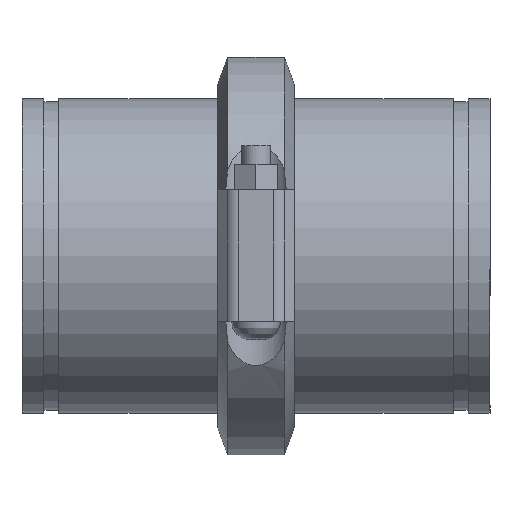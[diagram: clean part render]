
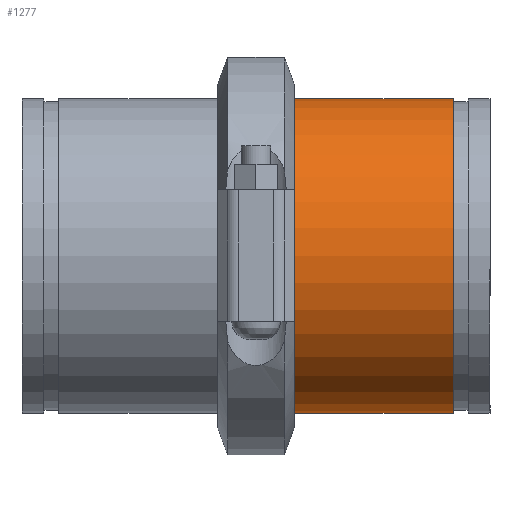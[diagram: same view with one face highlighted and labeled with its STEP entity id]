
A CAD part, top view. The second image highlights one B-rep face of the part: STEP entity #1277.
In plain terms, the highlighted cylindrical face has radius 136.525 mm (diameter 273.05 mm), a full revolution.
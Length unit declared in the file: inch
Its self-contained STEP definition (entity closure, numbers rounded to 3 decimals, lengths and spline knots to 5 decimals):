
#60=LINE('',#2021,#143);
#143=VECTOR('',#1650,5.375);
#226=CYLINDRICAL_SURFACE('',#1467,5.375);
#275=FACE_OUTER_BOUND('',#352,.T.);
#352=EDGE_LOOP('',(#837,#838,#839,#840,#841,#842));
#448=CIRCLE('',#1465,5.375);
#449=CIRCLE('',#1466,5.375);
#450=CIRCLE('',#1468,5.375);
#451=CIRCLE('',#1469,5.375);
#520=VERTEX_POINT('',#2012);
#521=VERTEX_POINT('',#2013);
#522=VERTEX_POINT('',#2017);
#523=VERTEX_POINT('',#2018);
#645=EDGE_CURVE('',#520,#521,#448,.T.);
#646=EDGE_CURVE('',#521,#520,#449,.T.);
#647=EDGE_CURVE('',#522,#523,#450,.T.);
#648=EDGE_CURVE('',#523,#522,#451,.T.);
#649=EDGE_CURVE('',#523,#521,#60,.T.);
#837=ORIENTED_EDGE('',*,*,#647,.F.);
#838=ORIENTED_EDGE('',*,*,#648,.F.);
#839=ORIENTED_EDGE('',*,*,#649,.T.);
#840=ORIENTED_EDGE('',*,*,#646,.T.);
#841=ORIENTED_EDGE('',*,*,#645,.T.);
#842=ORIENTED_EDGE('',*,*,#649,.F.);
#1277=ADVANCED_FACE('',(#275),#226,.T.);
#1465=AXIS2_PLACEMENT_3D('',#2014,#1640,#1641);
#1466=AXIS2_PLACEMENT_3D('',#2015,#1642,#1643);
#1467=AXIS2_PLACEMENT_3D('',#2016,#1644,#1645);
#1468=AXIS2_PLACEMENT_3D('',#2019,#1646,#1647);
#1469=AXIS2_PLACEMENT_3D('',#2020,#1648,#1649);
#1640=DIRECTION('center_axis',(-1.,0.,0.));
#1641=DIRECTION('ref_axis',(0.,0.,1.));
#1642=DIRECTION('center_axis',(-1.,0.,0.));
#1643=DIRECTION('ref_axis',(0.,0.,1.));
#1644=DIRECTION('center_axis',(-1.,0.,0.));
#1645=DIRECTION('ref_axis',(0.,1.,0.));
#1646=DIRECTION('center_axis',(-1.,0.,0.));
#1647=DIRECTION('ref_axis',(0.,0.,1.));
#1648=DIRECTION('center_axis',(-1.,0.,0.));
#1649=DIRECTION('ref_axis',(0.,0.,1.));
#1650=DIRECTION('',(1.,0.,0.));
#2012=CARTESIAN_POINT('',(2.735,5.375,0.));
#2013=CARTESIAN_POINT('',(2.735,-5.375,0.));
#2014=CARTESIAN_POINT('Origin',(2.735,0.,0.));
#2015=CARTESIAN_POINT('Origin',(2.735,0.,0.));
#2016=CARTESIAN_POINT('Origin',(0.,0.,
0.));
#2017=CARTESIAN_POINT('',(-2.735,5.375,0.));
#2018=CARTESIAN_POINT('',(-2.735,-5.375,0.));
#2019=CARTESIAN_POINT('Origin',(-2.735,0.,0.));
#2020=CARTESIAN_POINT('Origin',(-2.735,0.,0.));
#2021=CARTESIAN_POINT('',(0.,-5.375,0.));
